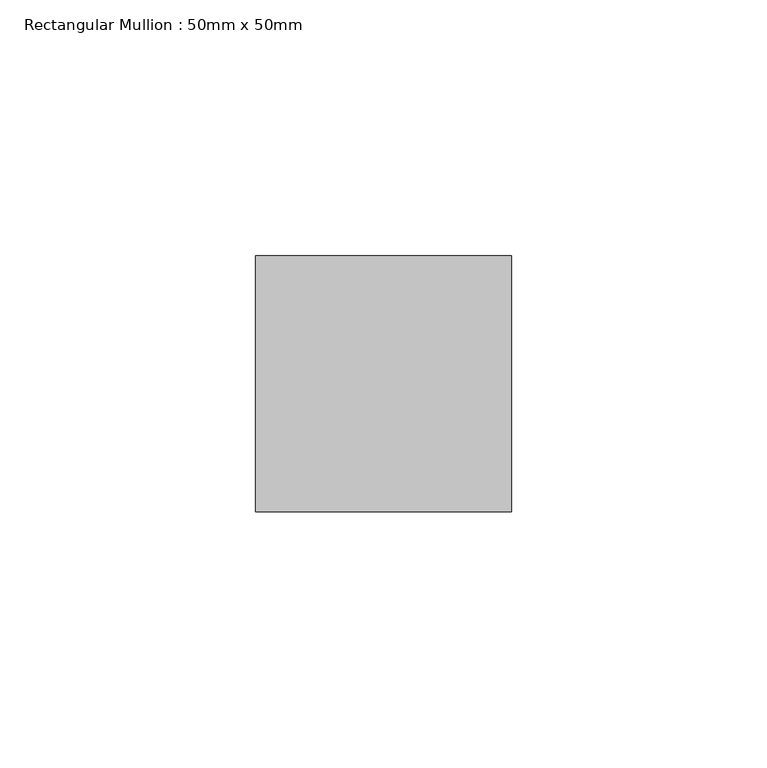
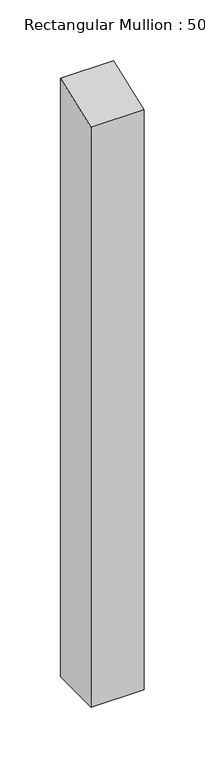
"""IFC4 building model written with IfcOpenShell, lengths in millimetres: member geometry, Rectangular Mullion : 50mm x 50mm."""

from ifc_helpers import new_model, si_unit, frame, origin, place, context, project, spatial, polyline, outline, extrude, source, transform, mapped, element, save


def rectangular_mullion_50mm_x_50mm_c0c88477(model_context):
    return source(origin(), model_context, "Body", "SweptSolid", [
        extrude(outline(polyline([(-25.0, -9.3435582), (25.0, 9.3435582), (25.0, -590.0), (-25.0, -590.0), (-25.0, -9.3435582)])), frame((-50.0, 0.0, 0.0), z_axis=(1.0, 0.0, 0.0), x_axis=(0.0, 1.0, 0.0)), (0.0, 0.0, 1.0), 50.0),
    ])


if __name__ == "__main__":
    model = new_model("IFC4")
    model_context = context("Model", 3, world=origin())
    ifc_project = project(units=[si_unit("LENGTHUNIT", "METRE", prefix="MILLI")], contexts=[model_context])
    site = spatial("IfcSite", under=ifc_project)
    building = spatial("IfcBuilding", under=site)
    placement = place(None, origin())
    rectangular_mullion_50mm_x_50mm_shape = rectangular_mullion_50mm_x_50mm_c0c88477(model_context)
    element("IfcMember", 1, ObjectType="Rectangular Mullion : 50mm x 50mm", at=placement, inside=building, context=model_context, shape_type="MappedRepresentation", body=[
        mapped(rectangular_mullion_50mm_x_50mm_shape, transform((0.0, 0.0, 0.0), x_axis=(1.0, 0.0, 0.0), y_axis=(0.0, 1.0, 0.0), z_axis=(0.0, 0.0, 1.0))),
    ])
    save(model, "model.ifc")
